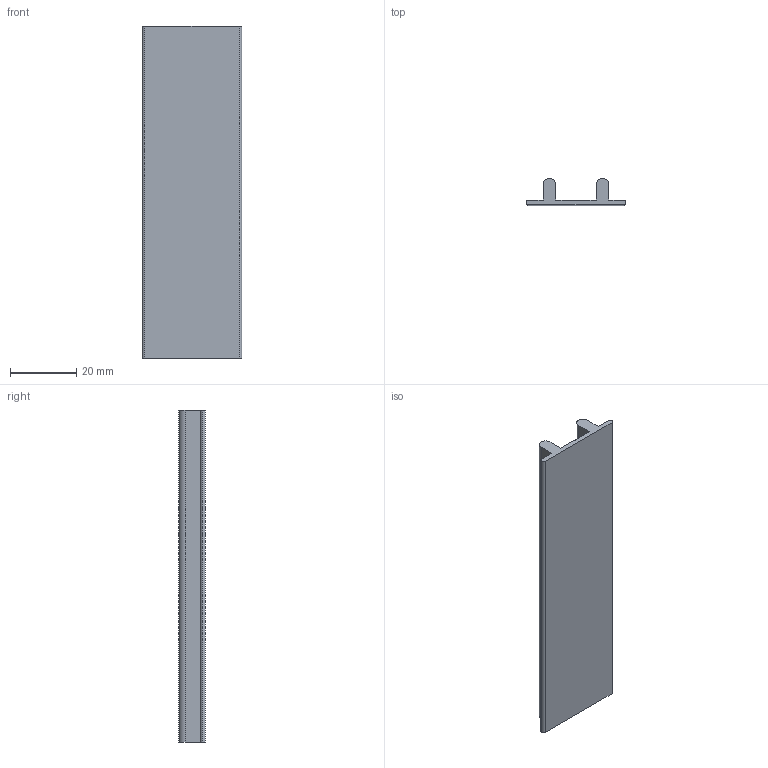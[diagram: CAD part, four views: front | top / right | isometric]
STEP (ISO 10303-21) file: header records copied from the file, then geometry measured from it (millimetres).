
FILE_DESCRIPTION (( 'STEP AP203' ), '1' );
FILE_NAME ('SDS06.STEP', '2024-02-19T12:12:08', ( '' ), ( '' ), 'SwSTEP 2.0', 'SolidWorks 2022', '' );
FILE_SCHEMA (( 'CONFIG_CONTROL_DESIGN' ));
Length unit declared in the file: millimetre
Products named in the file (1): SDS06
Bounding box: 30 x 8 x 100 mm (x, y, z)
Volume: 9079.5 mm3; surface area: 8649.8 mm2
Topology: 1 solids, 1 shells, 18 faces, 48 edges, 32 vertices
Faces by surface type: plane 13, cylinder 5
Entity records: 639 total; most frequent: CARTESIAN_POINT 99, DIRECTION 96, ORIENTED_EDGE 96, EDGE_CURVE 48, LINE 38, VECTOR 38, VERTEX_POINT 32, AXIS2_PLACEMENT_3D 29
